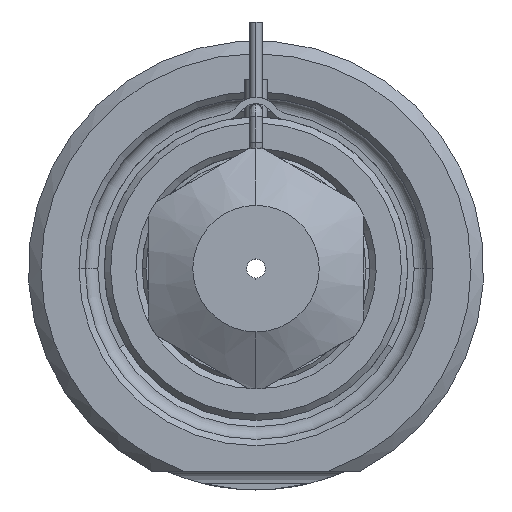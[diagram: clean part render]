
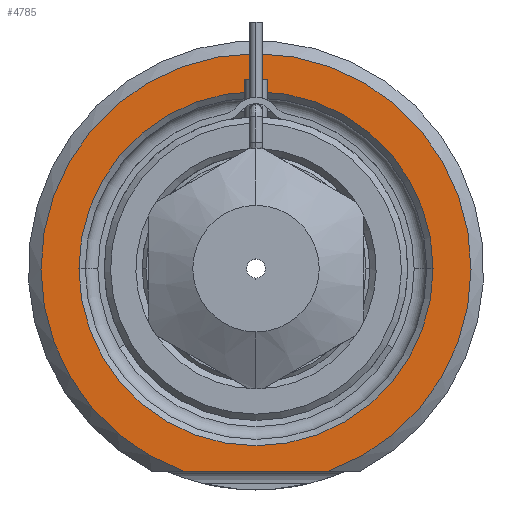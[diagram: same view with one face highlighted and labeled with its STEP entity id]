
A CAD part, front view. The second image highlights one B-rep face of the part: STEP entity #4785.
In plain terms, the highlighted planar face has unit normal (0, -1, 0).
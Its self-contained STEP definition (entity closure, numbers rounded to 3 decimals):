
#1444=DIRECTION('',(1.,0.,0.));
#1445=VECTOR('',#1444,11.489);
#1446=CARTESIAN_POINT('',(-5.745,0.,-16.));
#1447=LINE('',#1446,#1445);
#1448=CARTESIAN_POINT('',(0.,0.,0.));
#1449=DIRECTION('',(0.,1.,0.));
#1450=DIRECTION('',(-1.,0.,0.));
#1451=AXIS2_PLACEMENT_3D('',#1448,#1449,#1450);
#1453=CARTESIAN_POINT('',(0.,0.,0.));
#1454=DIRECTION('',(0.,1.,0.));
#1455=DIRECTION('',(1.,0.,0.));
#1456=AXIS2_PLACEMENT_3D('',#1453,#1454,#1455);
#1560=CARTESIAN_POINT('',(0.,0.,0.));
#1561=DIRECTION('',(0.,-1.,0.));
#1562=DIRECTION('',(0.338,0.,-0.941));
#1563=AXIS2_PLACEMENT_3D('',#1560,#1561,#1562);
#2522=CARTESIAN_POINT('',(-14.,0.,0.));
#2523=CARTESIAN_POINT('',(14.,0.,0.));
#2524=VERTEX_POINT('',#2522);
#2525=VERTEX_POINT('',#2523);
#2562=CARTESIAN_POINT('',(-5.745,0.,-16.));
#2563=CARTESIAN_POINT('',(5.745,0.,-16.));
#2564=VERTEX_POINT('',#2562);
#2565=VERTEX_POINT('',#2563);
#4769=CARTESIAN_POINT('',(0.,0.,0.));
#4770=DIRECTION('',(0.,-1.,0.));
#4771=DIRECTION('',(1.,0.,0.));
#4772=AXIS2_PLACEMENT_3D('',#4769,#4770,#4771);
#4773=PLANE('',#4772);
#4775=ORIENTED_EDGE('',*,*,#4774,.F.);
#4777=ORIENTED_EDGE('',*,*,#4776,.F.);
#4778=EDGE_LOOP('',(#4775,#4777));
#4779=FACE_OUTER_BOUND('',#4778,.F.);
#4781=ORIENTED_EDGE('',*,*,#4780,.F.);
#4782=ORIENTED_EDGE('',*,*,#4759,.F.);
#4783=EDGE_LOOP('',(#4781,#4782));
#4784=FACE_BOUND('',#4783,.F.);
#4785=ADVANCED_FACE('',(#4779,#4784),#4773,.T.);
#1452=CIRCLE('',#1451,14.);
#1457=CIRCLE('',#1456,14.);
#1564=CIRCLE('',#1563,17.);
#4759=EDGE_CURVE('',#2525,#2524,#1457,.T.);
#4774=EDGE_CURVE('',#2564,#2565,#1447,.T.);
#4776=EDGE_CURVE('',#2565,#2564,#1564,.T.);
#4780=EDGE_CURVE('',#2524,#2525,#1452,.T.);
